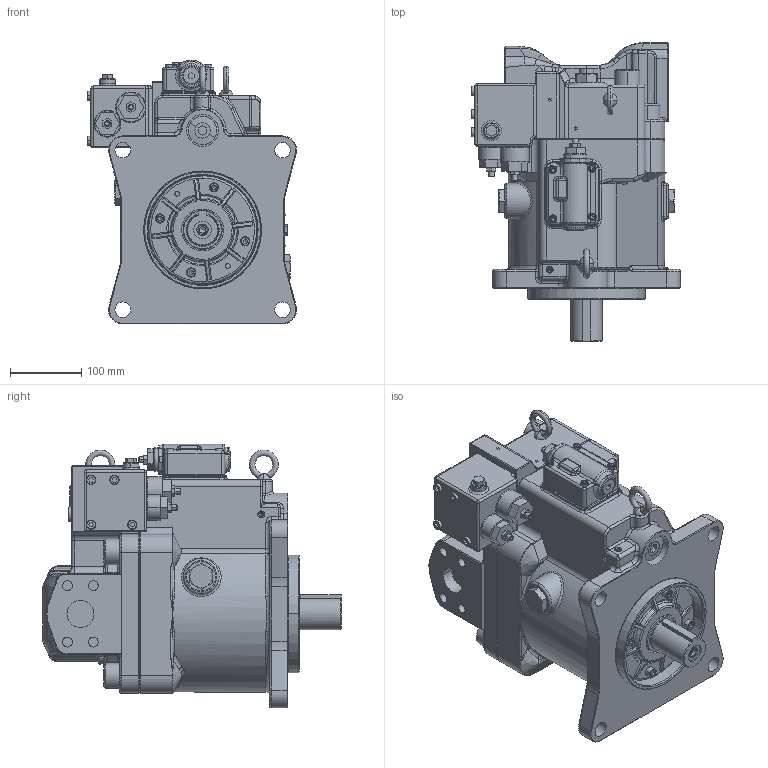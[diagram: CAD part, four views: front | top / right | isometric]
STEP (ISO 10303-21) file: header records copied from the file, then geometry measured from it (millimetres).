
FILE_DESCRIPTION((''),'2;1');
FILE_NAME('I:\Inventor\K3V, M2X\MODEL LIBRARY\KPMJ files\K3VL200B-10RKS-P01-H3.stp','2007-02-26T08:41:45',('mnorman'),(''),'Autodesk Inventor 11','Autodesk Inventor 11','');
FILE_SCHEMA(('AUTOMOTIVE_DESIGN { 1 0 10303 214 1 1 1 1 }'));
Length unit declared in the file: millimetre
Products named in the file (38): 10; 101; 102; 103; 104; 105; 106; 107; 108; 109; 1010; 1011; 1012; 1013; 1014; 1015; 1016; 1017; 1018; 1019; 1020; 1021; 1022; 1023; 1024; 1025; 1026; 1027; 1028; 1029; 1030; 1031; 1032; 1033; 1034; 1035; 1036; 1037
Assembly tree (37 placements, depth 2):
  10
    101
    102
    103
    104
    105
    106
    107
    108
    109
    1010
    1011
    1012
    1013
    1014
    1015
    1016
    1017
    1018
    1019
    1020
    1021
    1022
    1023
    1024
    1025
    1026
    1027
    1028
    1029
    1030
    1031
    1032
    1033
    1034
    1035
    1036
    1037
Bounding box: 294.2 x 420 x 371.2 mm (x, y, z)
Volume: 18700120.4 mm3; surface area: 763846.5 mm2
Topology: 37 solids, 37 shells, 1885 faces, 4455 edges, 2689 vertices
Faces by surface type: plane 740, bspline 490, cylinder 366, cone 215, torus 61, sphere 13
Full cylindrical faces by diameter (mm): 41 x1, 50 x1
Entity records: 91196 total; most frequent: CARTESIAN_POINT 50196, ORIENTED_EDGE 8410, DIRECTION 8054, EDGE_CURVE 4205, AXIS2_PLACEMENT_3D 3086, VERTEX_POINT 2601, EDGE_LOOP 2140, FACE_OUTER_BOUND 1885
